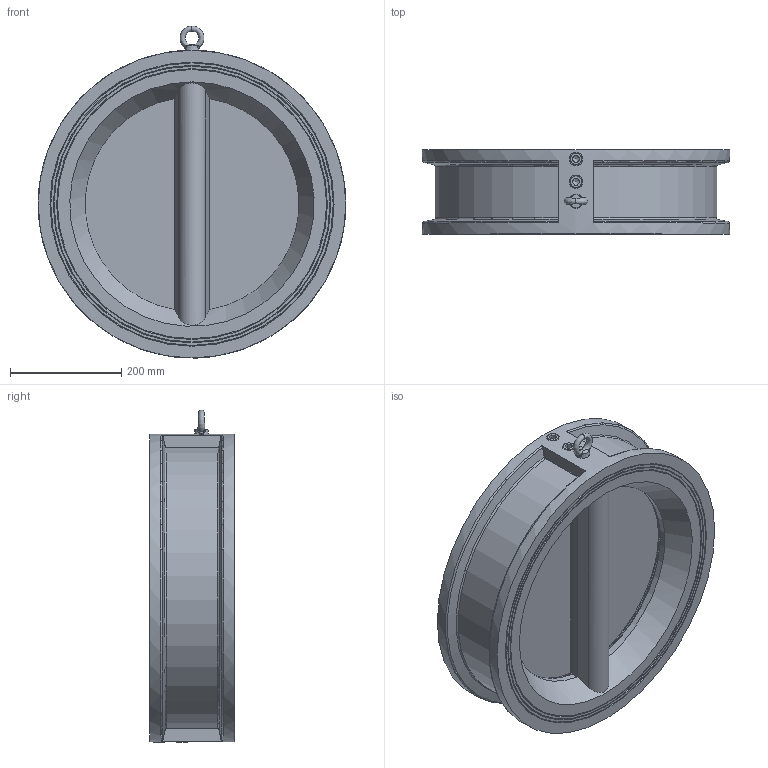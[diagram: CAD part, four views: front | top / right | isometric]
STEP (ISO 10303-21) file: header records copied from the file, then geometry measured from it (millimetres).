
FILE_DESCRIPTION (( 'STEP AP203' ), '1' );
FILE_NAME ('5306 DN450 ×°Åä PN16.STEP', '2025-07-22T03:31:12', ( '' ), ( '' ), 'SwSTEP 2.0', 'SolidWorks 2018', '' );
FILE_SCHEMA (( 'CONFIG_CONTROL_DESIGN' ));
Length unit declared in the file: millimetre
Products named in the file (7): 5306 DN450 境蝶; 5306 DN450 概啣; 5306 DN450 蚾饜 PN16; GB╱T 825-1988[吊环螺钉M10]_M10; 5306 DN450 概粣; 5306 DN450 概极; GB╱T 77-2007[内六角平端紧定螺钉M24×25]_M24×25
Assembly tree (11 placements, depth 2):
  5306 DN450 蚾饜 PN16
    5306 DN450 概极
    5306 DN450 境蝶
    5306 DN450 概粣  x2
    5306 DN450 概啣  x2
    GB╱T 77-2007[内六角平端紧定螺钉M24×25]_M24×25  x4
    GB╱T 825-1988[吊环螺钉M10]_M10
Bounding box: 554 x 152 x 597.6 mm (x, y, z)
Volume: 15062379 mm3; surface area: 1380978.9 mm2
Topology: 12 solids, 12 shells, 322 faces, 761 edges, 467 vertices
Faces by surface type: plane 153, cylinder 69, cone 43, bspline 40, torus 17
Full cylindrical faces by diameter (mm): 8.5 x1, 10 x1, 15 x1, 20 x6, 21 x4, 24 x4, 25 x4, 450 x1, 554 x1
Entity records: 10748 total; most frequent: CARTESIAN_POINT 5197, ORIENTED_EDGE 936, DIRECTION 918, EDGE_CURVE 468, AXIS2_PLACEMENT_3D 376, VERTEX_POINT 314, EDGE_LOOP 308, FACE_OUTER_BOUND 247
